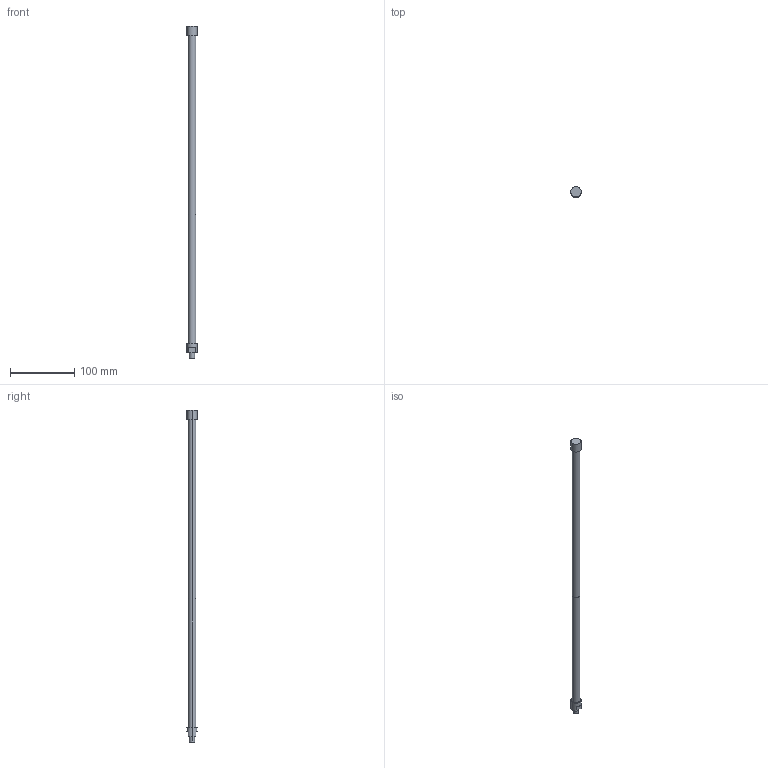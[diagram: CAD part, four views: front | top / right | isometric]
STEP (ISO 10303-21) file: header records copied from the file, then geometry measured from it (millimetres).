
FILE_DESCRIPTION(('STEP AP214'),'1');
FILE_NAME('C:/Users/Autocad/Desktop/L515-C330 MN.stp','2014-02-10T09:28:36',(' '),(' '),'Spatial InterOp 3D',' ',' ');
FILE_SCHEMA(('automotive_design'));
Length unit declared in the file: metre
Products named in the file (2): 1; 2
Bounding box: 16 x 16 x 515 mm (x, y, z)
Volume: 41105.2 mm3; surface area: 27626.5 mm2
Topology: 1 solids, 5 shells, 27 faces, 62 edges, 46 vertices
Faces by surface type: cylinder 14, plane 13
Entity records: 1056 total; most frequent: DIRECTION 158, CARTESIAN_POINT 137, ORIENTED_EDGE 112, AXIS2_PLACEMENT_3D 67, EDGE_CURVE 62, VERTEX_POINT 46, CIRCLE 38, EDGE_LOOP 32
